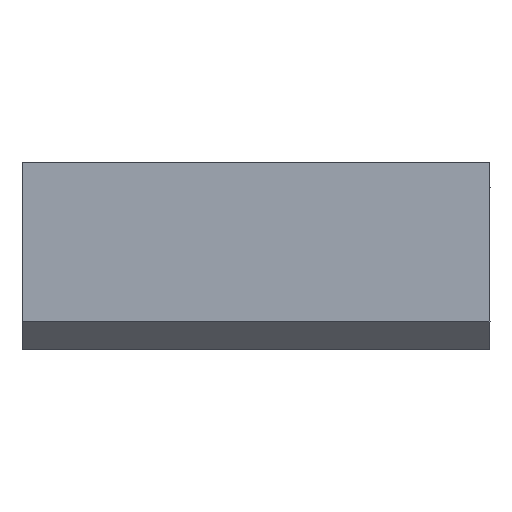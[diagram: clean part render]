
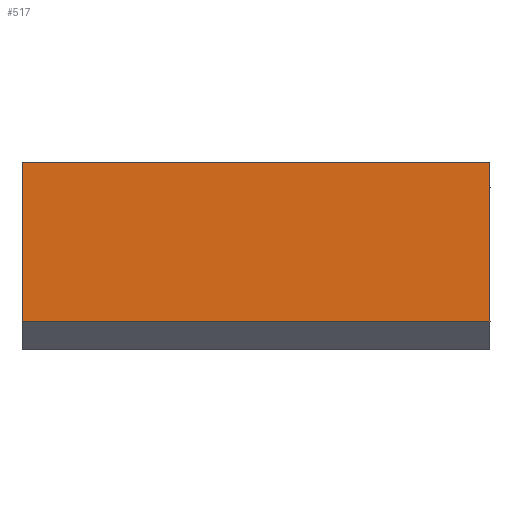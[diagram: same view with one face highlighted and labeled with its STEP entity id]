
A CAD part, front view. The second image highlights one B-rep face of the part: STEP entity #517.
In plain terms, the highlighted planar face has unit normal (0, -1, 0).
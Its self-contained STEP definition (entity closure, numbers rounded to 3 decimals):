
#28 = CARTESIAN_POINT ( 'NONE',  ( -5.903, -142.805, 3. ) ) ;
#29 = EDGE_CURVE ( 'NONE', #361, #106, #258, .T. ) ;
#45 = CARTESIAN_POINT ( 'NONE',  ( -5.903, -142.805, 20. ) ) ;
#47 = DIRECTION ( 'NONE',  ( 1., 0., 0. ) ) ;
#62 = DIRECTION ( 'NONE',  ( 1., 0., 0. ) ) ;
#106 = VERTEX_POINT ( 'NONE', #464 ) ;
#110 = AXIS2_PLACEMENT_3D ( 'NONE', #473, #225, #47 ) ;
#114 = ORIENTED_EDGE ( 'NONE', *, *, #281, .T. ) ;
#123 = LINE ( 'NONE', #28, #328 ) ;
#127 = DIRECTION ( 'NONE',  ( 1., 0., 0. ) ) ;
#157 = VERTEX_POINT ( 'NONE', #426 ) ;
#186 = EDGE_CURVE ( 'NONE', #106, #157, #555, .T. ) ;
#225 = DIRECTION ( 'NONE',  ( 0., 1., 0. ) ) ;
#253 = ORIENTED_EDGE ( 'NONE', *, *, #29, .F. ) ;
#258 = LINE ( 'NONE', #45, #279 ) ;
#279 = VECTOR ( 'NONE', #127, 1000. ) ;
#281 = EDGE_CURVE ( 'NONE', #467, #157, #123, .T. ) ;
#316 = ORIENTED_EDGE ( 'NONE', *, *, #186, .F. ) ;
#328 = VECTOR ( 'NONE', #62, 1000. ) ;
#347 = CARTESIAN_POINT ( 'NONE',  ( -30.903, -142.805, 3. ) ) ;
#352 = CARTESIAN_POINT ( 'NONE',  ( -30.903, -142.805, 20. ) ) ;
#361 = VERTEX_POINT ( 'NONE', #352 ) ;
#405 = LINE ( 'NONE', #443, #458 ) ;
#420 = FACE_OUTER_BOUND ( 'NONE', #468, .T. ) ;
#426 = CARTESIAN_POINT ( 'NONE',  ( 19.097, -142.805, 3. ) ) ;
#443 = CARTESIAN_POINT ( 'NONE',  ( -30.903, -142.805, 11.5 ) ) ;
#444 = DIRECTION ( 'NONE',  ( 0., 0., -1. ) ) ;
#454 = VECTOR ( 'NONE', #504, 1000. ) ;
#458 = VECTOR ( 'NONE', #444, 1000. ) ;
#464 = CARTESIAN_POINT ( 'NONE',  ( 19.097, -142.805, 20. ) ) ;
#467 = VERTEX_POINT ( 'NONE', #347 ) ;
#468 = EDGE_LOOP ( 'NONE', ( #554, #114, #316, #253 ) ) ;
#473 = CARTESIAN_POINT ( 'NONE',  ( -30.903, -142.805, 20. ) ) ;
#495 = CARTESIAN_POINT ( 'NONE',  ( 19.097, -142.805, 11.5 ) ) ;
#498 = PLANE ( 'NONE',  #110 ) ;
#504 = DIRECTION ( 'NONE',  ( 0., 0., -1. ) ) ;
#517 = ADVANCED_FACE ( 'NONE', ( #420 ), #498, .F. ) ;
#540 = EDGE_CURVE ( 'NONE', #361, #467, #405, .T. ) ;
#554 = ORIENTED_EDGE ( 'NONE', *, *, #540, .T. ) ;
#555 = LINE ( 'NONE', #495, #454 ) ;
